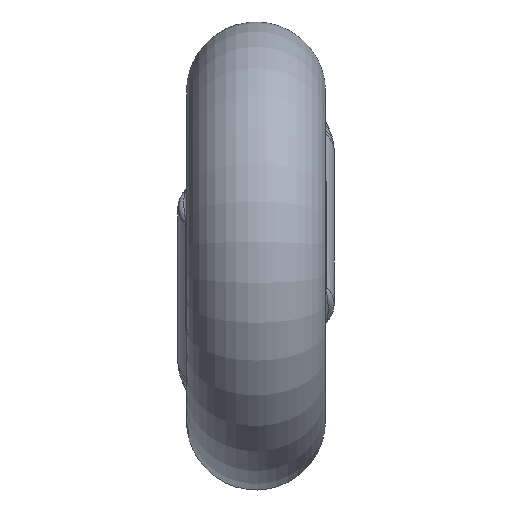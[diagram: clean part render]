
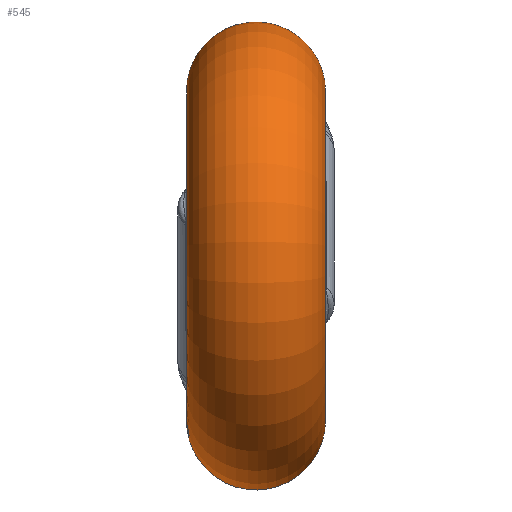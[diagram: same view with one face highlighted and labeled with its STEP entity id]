
A CAD part, left-side view. The second image highlights one B-rep face of the part: STEP entity #545.
In plain terms, the highlighted toroidal (fillet/blend) face has major radius 4.75 mm and minor radius 2 mm.
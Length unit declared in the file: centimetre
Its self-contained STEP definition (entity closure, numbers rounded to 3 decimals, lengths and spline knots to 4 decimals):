
#42=TOROIDAL_SURFACE('',#591,0.475,0.2);
#55=B_SPLINE_CURVE_WITH_KNOTS('',3,(#981,#982,#983,#984,#985,#986),
 .UNSPECIFIED.,.F.,.F.,(4,1,1,4),(-0.2049,-0.1171,
-0.0585,0.),.UNSPECIFIED.);
#68=B_SPLINE_CURVE_WITH_KNOTS('',3,(#1406,#1407,#1408,#1409,#1410,#1411,
#1412),.UNSPECIFIED.,.F.,.F.,(4,1,1,1,4),(-0.2049,-0.1464,
-0.0878,-0.0439,0.),.UNSPECIFIED.);
#73=B_SPLINE_CURVE_WITH_KNOTS('',3,(#1699,#1700,#1701,#1702,#1703,#1704),
 .UNSPECIFIED.,.F.,.F.,(4,1,1,4),(-0.2392,-0.1709,
-0.1025,0.),.UNSPECIFIED.);
#75=B_SPLINE_CURVE_WITH_KNOTS('',3,(#1766,#1767,#1768,#1769,#1770,#1771,
#1772,#1773,#1774,#1775,#1776),.UNSPECIFIED.,.F.,.F.,(4,1,1,1,1,1,1,1,4),
(-0.4647,-0.3984,-0.332,-0.2656,
-0.1992,-0.1328,-0.0664,-0.0498,
0.),.UNSPECIFIED.);
#77=B_SPLINE_CURVE_WITH_KNOTS('',3,(#1795,#1796,#1797,#1798,#1799,#1800,
#1801,#1802,#1803,#1804,#1805),.UNSPECIFIED.,.F.,.F.,(4,1,1,1,1,1,1,1,4),
(-0.4647,-0.3983,-0.3319,-0.2656,
-0.1992,-0.1328,-0.0664,-0.0498,
0.),.UNSPECIFIED.);
#78=B_SPLINE_CURVE_WITH_KNOTS('',3,(#1808,#1809,#1810,#1811,#1812,#1813),
 .UNSPECIFIED.,.F.,.F.,(4,1,1,4),(-0.2392,-0.1709,
-0.1025,0.),.UNSPECIFIED.);
#99=FACE_BOUND('',#160,.T.);
#122=FACE_OUTER_BOUND('',#159,.T.);
#159=EDGE_LOOP('',(#427,#428,#429,#430));
#160=EDGE_LOOP('',(#431,#432,#433,#434));
#197=CIRCLE('',#592,0.475);
#198=CIRCLE('',#593,0.475);
#221=VERTEX_POINT('',#978);
#222=VERTEX_POINT('',#980);
#234=VERTEX_POINT('',#1403);
#235=VERTEX_POINT('',#1405);
#237=VERTEX_POINT('',#1555);
#244=VERTEX_POINT('',#1660);
#245=VERTEX_POINT('',#1794);
#246=VERTEX_POINT('',#1806);
#272=EDGE_CURVE('',#221,#222,#55,.T.);
#290=EDGE_CURVE('',#234,#235,#68,.T.);
#305=EDGE_CURVE('',#222,#244,#73,.T.);
#307=EDGE_CURVE('',#237,#221,#75,.T.);
#311=EDGE_CURVE('',#245,#234,#77,.T.);
#312=EDGE_CURVE('',#245,#246,#197,.T.);
#313=EDGE_CURVE('',#235,#246,#78,.T.);
#314=EDGE_CURVE('',#237,#244,#198,.T.);
#427=ORIENTED_EDGE('',*,*,#311,.F.);
#428=ORIENTED_EDGE('',*,*,#312,.T.);
#429=ORIENTED_EDGE('',*,*,#313,.F.);
#430=ORIENTED_EDGE('',*,*,#290,.F.);
#431=ORIENTED_EDGE('',*,*,#305,.F.);
#432=ORIENTED_EDGE('',*,*,#272,.F.);
#433=ORIENTED_EDGE('',*,*,#307,.F.);
#434=ORIENTED_EDGE('',*,*,#314,.T.);
#545=ADVANCED_FACE('',(#122,#99),#42,.T.);
#591=AXIS2_PLACEMENT_3D('',#1793,#677,#678);
#592=AXIS2_PLACEMENT_3D('',#1807,#679,#680);
#593=AXIS2_PLACEMENT_3D('',#1814,#681,#682);
#677=DIRECTION('center_axis',(0.,1.,0.));
#678=DIRECTION('ref_axis',(1.,0.,0.));
#679=DIRECTION('center_axis',(0.,1.,0.));
#680=DIRECTION('ref_axis',(-1.,0.,0.));
#681=DIRECTION('center_axis',(0.,-1.,0.));
#682=DIRECTION('ref_axis',(-1.,0.,0.));
#978=CARTESIAN_POINT('',(0.6017,0.0514,-0.3028));
#980=CARTESIAN_POINT('',(0.5176,0.177,-0.3882));
#981=CARTESIAN_POINT('Ctrl Pts',(0.6017,0.0514,-0.3028));
#982=CARTESIAN_POINT('Ctrl Pts',(0.589,0.0531,-0.3286));
#983=CARTESIAN_POINT('Ctrl Pts',(0.5672,0.0708,-0.3708));
#984=CARTESIAN_POINT('Ctrl Pts',(0.5389,0.1257,-0.4001));
#985=CARTESIAN_POINT('Ctrl Pts',(0.5242,0.1611,-0.3952));
#986=CARTESIAN_POINT('Ctrl Pts',(0.5176,0.177,-0.3882));
#1403=CARTESIAN_POINT('',(0.6017,0.0986,0.3028));
#1405=CARTESIAN_POINT('',(0.5176,-0.027,0.3882));
#1406=CARTESIAN_POINT('Ctrl Pts',(0.6017,0.0986,
0.3028));
#1407=CARTESIAN_POINT('Ctrl Pts',(0.5932,0.0974,
0.32));
#1408=CARTESIAN_POINT('Ctrl Pts',(0.5758,0.0875,
0.3538));
#1409=CARTESIAN_POINT('Ctrl Pts',(0.5529,0.0529,
0.388));
#1410=CARTESIAN_POINT('Ctrl Pts',(0.5332,0.0107,0.3989));
#1411=CARTESIAN_POINT('Ctrl Pts',(0.5225,-0.0151,
0.3934));
#1412=CARTESIAN_POINT('Ctrl Pts',(0.5176,-0.027,
0.3882));
#1555=CARTESIAN_POINT('',(0.4725,0.275,-0.0491));
#1660=CARTESIAN_POINT('',(0.4229,0.275,-0.2163));
#1699=CARTESIAN_POINT('Ctrl Pts',(0.5176,0.177,-0.3882));
#1700=CARTESIAN_POINT('Ctrl Pts',(0.51,0.1956,-0.38));
#1701=CARTESIAN_POINT('Ctrl Pts',(0.4959,0.2281,-0.3526));
#1702=CARTESIAN_POINT('Ctrl Pts',(0.4705,0.264,-0.2895));
#1703=CARTESIAN_POINT('Ctrl Pts',(0.4457,0.275,-0.2398));
#1704=CARTESIAN_POINT('Ctrl Pts',(0.4229,0.275,-0.2163));
#1766=CARTESIAN_POINT('Ctrl Pts',(0.4725,0.275,-0.0491));
#1767=CARTESIAN_POINT('Ctrl Pts',(0.4873,0.275,-0.0646));
#1768=CARTESIAN_POINT('Ctrl Pts',(0.522,0.2707,-0.0905));
#1769=CARTESIAN_POINT('Ctrl Pts',(0.5774,0.2443,-0.11));
#1770=CARTESIAN_POINT('Ctrl Pts',(0.6214,0.2012,-0.1278));
#1771=CARTESIAN_POINT('Ctrl Pts',(0.6468,0.1476,-0.1532));
#1772=CARTESIAN_POINT('Ctrl Pts',(0.6486,0.0946,
-0.1916));
#1773=CARTESIAN_POINT('Ctrl Pts',(0.6349,0.0667,
-0.2305));
#1774=CARTESIAN_POINT('Ctrl Pts',(0.6184,0.0529,
-0.2683));
#1775=CARTESIAN_POINT('Ctrl Pts',(0.609,0.0505,
-0.2882));
#1776=CARTESIAN_POINT('Ctrl Pts',(0.6017,0.0514,
-0.3028));
#1793=CARTESIAN_POINT('Origin',(0.,0.075,0.));
#1794=CARTESIAN_POINT('',(0.4725,-0.125,0.0491));
#1795=CARTESIAN_POINT('Ctrl Pts',(0.4725,-0.125,0.0491));
#1796=CARTESIAN_POINT('Ctrl Pts',(0.4873,-0.125,0.0646));
#1797=CARTESIAN_POINT('Ctrl Pts',(0.522,-0.1207,
0.0905));
#1798=CARTESIAN_POINT('Ctrl Pts',(0.5774,-0.0943,
0.11));
#1799=CARTESIAN_POINT('Ctrl Pts',(0.6214,-0.0512,
0.1278));
#1800=CARTESIAN_POINT('Ctrl Pts',(0.6468,0.0025,
0.1532));
#1801=CARTESIAN_POINT('Ctrl Pts',(0.6486,0.0554,
0.1916));
#1802=CARTESIAN_POINT('Ctrl Pts',(0.6349,0.0833,
0.2305));
#1803=CARTESIAN_POINT('Ctrl Pts',(0.6184,0.0971,
0.2683));
#1804=CARTESIAN_POINT('Ctrl Pts',(0.609,0.0995,
0.2882));
#1805=CARTESIAN_POINT('Ctrl Pts',(0.6017,0.0986,
0.3028));
#1806=CARTESIAN_POINT('',(0.4229,-0.125,0.2163));
#1807=CARTESIAN_POINT('Origin',(0.,-0.125,0.));
#1808=CARTESIAN_POINT('Ctrl Pts',(0.5176,-0.027,
0.3882));
#1809=CARTESIAN_POINT('Ctrl Pts',(0.51,-0.0456,
0.38));
#1810=CARTESIAN_POINT('Ctrl Pts',(0.4959,-0.078,
0.3526));
#1811=CARTESIAN_POINT('Ctrl Pts',(0.4705,-0.114,0.2895));
#1812=CARTESIAN_POINT('Ctrl Pts',(0.4457,-0.125,
0.2398));
#1813=CARTESIAN_POINT('Ctrl Pts',(0.4229,-0.125,0.2163));
#1814=CARTESIAN_POINT('Origin',(0.,0.275,0.));
